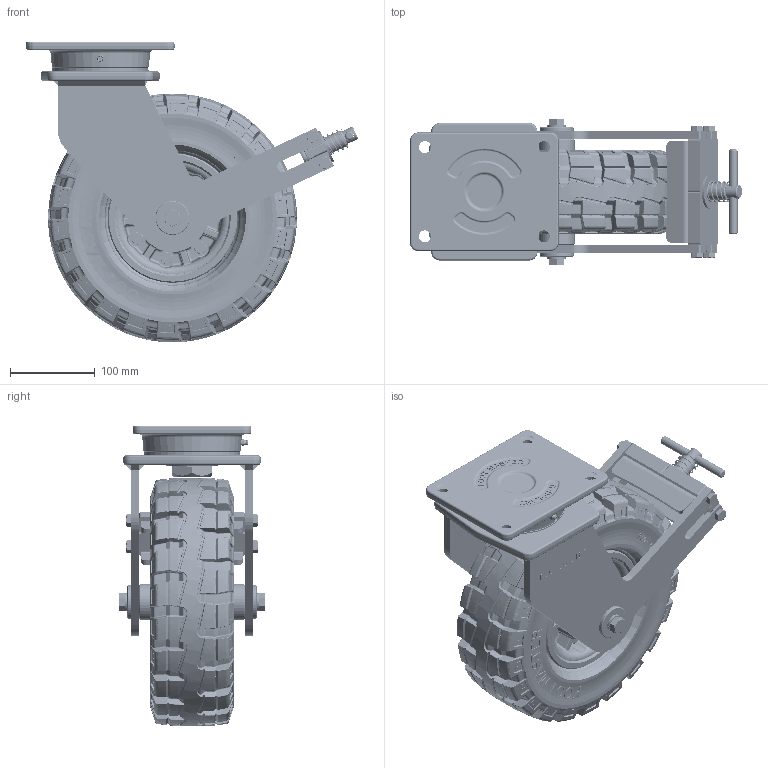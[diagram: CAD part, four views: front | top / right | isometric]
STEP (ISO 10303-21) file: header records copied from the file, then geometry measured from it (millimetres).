
FILE_DESCRIPTION(/* description */ (''),/* implementation_level */ '2;1');
FILE_NAME(/* name */ '\\192.168.10.38\지덕공유\1.기술연구소\2.연구개발 진행중\121.Solidtire caster_2024.11.22\제품설계\3D\홈페이지용\2.GT-300-BSF-TRD.stp',/* time_stamp */ '2025-09-01T10:00:31+09:00',/* author */ ('admin'),/* organization */ (''),/* preprocessor_version */ 'ST-DEVELOPER v18.1',/* originating_system */ 'Autodesk Inventor 2021',/* authorisation */ '');
FILE_SCHEMA (('AUTOMOTIVE_DESIGN { 1 0 10303 214 3 1 1 }'));
Products named in the file (1): 2.GT-300-BSF-TIRE-Rev01_2025.08.08_Shrinkwrap_1
Bounding box: 390.8 x 173 x 353.88 mm (x, y, z)
Volume: 7057021.7 mm3; surface area: 574366 mm2
Topology: 2 solids, 2 shells, 9929 faces, 24337 edges, 14683 vertices
Faces by surface type: bspline 5771, plane 1829, cylinder 805, torus 640, cone 631, sphere 253
Full cylindrical faces by diameter (mm): 1 x1, 6 x1, 8 x9, 10.2 x1, 12.5 x7, 14 x4, 16 x2, 17 x5, 20 x1, 24 x1, 40 x3, 42.7 x2, 62.5 x1, 113 x1, 114 x1, 160 x2
Entity records: 410290 total; most frequent: CARTESIAN_POINT 205850, ORIENTED_EDGE 48558, DIRECTION 27103, EDGE_CURVE 24279, VERTEX_POINT 14683, B_SPLINE_CURVE_WITH_KNOTS 11673, AXIS2_PLACEMENT_3D 11054, EDGE_LOOP 10284
